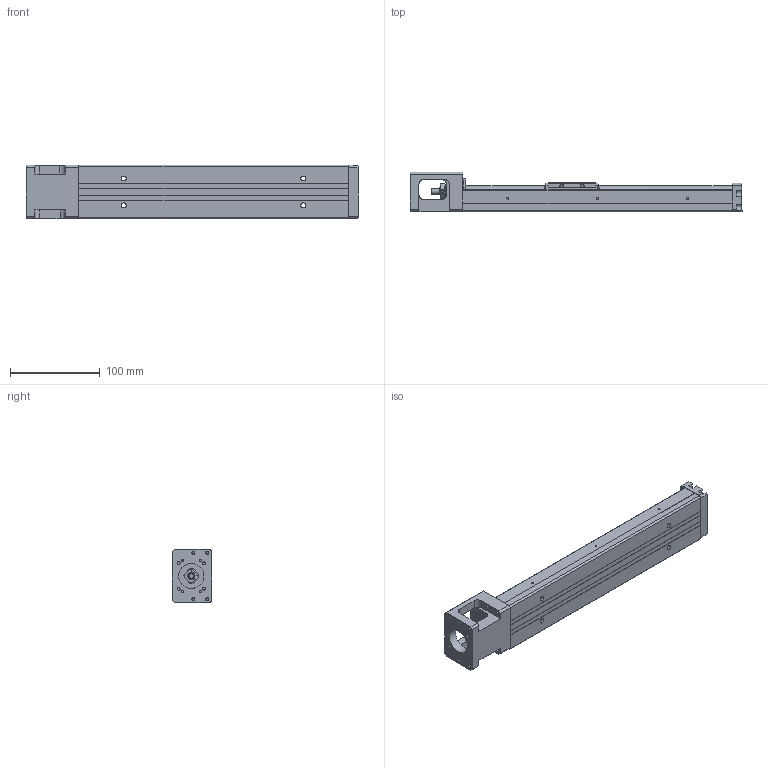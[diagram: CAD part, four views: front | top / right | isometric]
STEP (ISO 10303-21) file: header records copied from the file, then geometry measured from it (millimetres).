
FILE_DESCRIPTION(/* description */ (''),/* implementation_level */ '2;1');
FILE_NAME(/* name */ '33S-300low.stp',/* time_stamp */ '2018-02-12T11:22:07+08:00',/* author */ (''),/* organization */ (''),/* preprocessor_version */ 'ST-DEVELOPER v11',/* originating_system */ 'SIEMENS UGS NX 6.0',/* authorisation */ '');
FILE_SCHEMA (('AUTOMOTIVE_DESIGN { 1 0 10303 214 1 1 1 1 }'));
Length unit declared in the file: millimetre
Products named in the file (1): 3.069
Bounding box: 370 x 44.45 x 60 mm (x, y, z)
Volume: 418639.4 mm3; surface area: 118726.3 mm2
Topology: 5 solids, 10 shells, 595 faces, 1521 edges, 999 vertices
Faces by surface type: plane 351, cylinder 163, bspline 31, extrusion 21, cone 20, torus 7, revolution 2
Full cylindrical faces by diameter (mm): 1.6 x2, 1.65 x4, 2.15 x3, 2.42 x4, 2.45 x2, 2.5 x12, 3.2 x4, 3.3 x4, 3.4 x4, 3.5 x10, 3.969 x1, 4 x4, 4.001 x1, 4.135 x2, 5.5 x4, 6 x5, 7.6 x1, 8 x5, 9.5 x4, 10.72 x3, 11.8 x2, 12 x6, 12.8 x1, 13 x2, 14 x1, 16 x4, 21.5 x1, 28 x1
Entity records: 33668 total; most frequent: CARTESIAN_POINT 15937, DIRECTION 2696, ORIENTED_EDGE 2668, EDGE_CURVE 1334, VERTEX_POINT 938, AXIS2_PLACEMENT_3D 935, EDGE_LOOP 828, VECTOR 824
